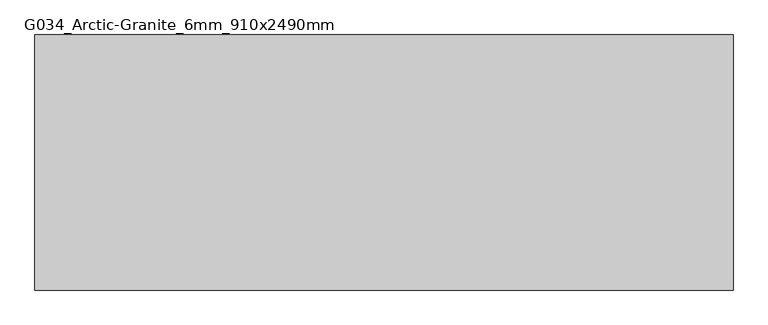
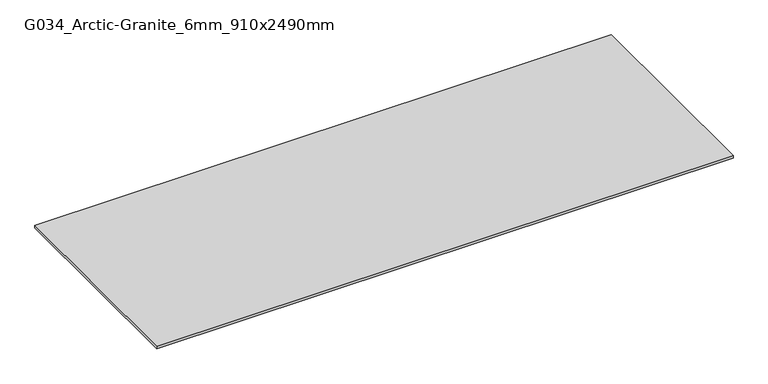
"""IFC4 building model written with IfcOpenShell, lengths in millimetres: proxy geometry, Kitchen_Counter-Tops_Indoor-Materials_HIMACS_Granite : G034_Arctic-Granite_6mm_910x2490mm."""

from ifc_helpers import new_model, si_unit, origin, origin_with_axes, place, context, project, spatial, polyline, outline, extrude, source, transform, mapped, element, save


def g034_arctic_granite_6mm_910x2490mm_29e5721c(model_context):
    return source(origin(), model_context, "Body", "SweptSolid", [
        extrude(outline(polyline([(1245.0, 455.0), (1245.0, -455.0), (-1245.0, -455.0), (-1245.0, 455.0), (1245.0, 455.0)])), origin_with_axes(), (0.0, 0.0, 1.0), 12.0),
    ])


if __name__ == "__main__":
    model = new_model("IFC4")
    model_context = context("Model", 3, world=origin())
    ifc_project = project(units=[si_unit("LENGTHUNIT", "METRE", prefix="MILLI")], contexts=[model_context])
    site = spatial("IfcSite", under=ifc_project)
    building = spatial("IfcBuilding", under=site)
    placement = place(None, origin())
    g034_arctic_granite_6mm_910x2490mm_shape = g034_arctic_granite_6mm_910x2490mm_29e5721c(model_context)
    element("IfcBuildingElementProxy", 1, Name="Kitchen_Counter-Tops_Indoor-Materials_HIMACS_Granite : G034_Arctic-Granite_6mm_910x2490mm", ObjectType="Kitchen_Counter-Tops_Indoor-Materials_HIMACS_Granite : G034_Arctic-Granite_6mm_910x2490mm", at=placement, inside=building, context=model_context, shape_type="MappedRepresentation", body=[
        mapped(g034_arctic_granite_6mm_910x2490mm_shape, transform((0.0, 0.0, 0.0), x_axis=(1.0, 0.0, 0.0), y_axis=(0.0, 1.0, 0.0), z_axis=(0.0, 0.0, 1.0))),
    ])
    save(model, "model.ifc")
